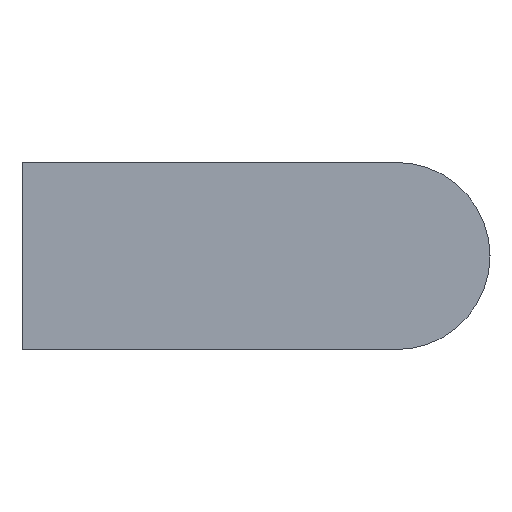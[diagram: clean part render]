
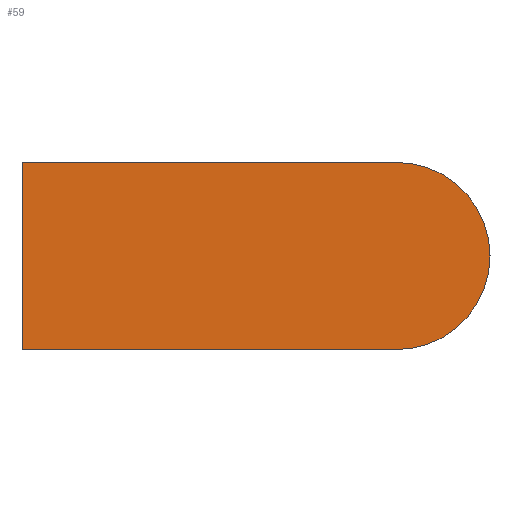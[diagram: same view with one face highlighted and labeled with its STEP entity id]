
A CAD part, left-side view. The second image highlights one B-rep face of the part: STEP entity #59.
In plain terms, the highlighted planar face has unit normal (-1, 0, 0).
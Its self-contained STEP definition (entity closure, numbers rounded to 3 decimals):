
#59 = ADVANCED_FACE( '', ( #129 ), #130, .F. );
#129 = FACE_OUTER_BOUND( '', #206, .T. );
#130 = PLANE( '', #207 );
#206 = EDGE_LOOP( '', ( #306, #307, #308, #309 ) );
#207 = AXIS2_PLACEMENT_3D( '', #310, #311, #312 );
#306 = ORIENTED_EDGE( '', *, *, #441, .F. );
#307 = ORIENTED_EDGE( '', *, *, #413, .F. );
#308 = ORIENTED_EDGE( '', *, *, #433, .F. );
#309 = ORIENTED_EDGE( '', *, *, #442, .F. );
#310 = CARTESIAN_POINT( '', ( -6., -28., 0. ) );
#311 = DIRECTION( '', ( 1., 0., 0. ) );
#312 = DIRECTION( '', ( 0., 0., -1. ) );
#413 = EDGE_CURVE( '', #473, #474, #475, .T. );
#433 = EDGE_CURVE( '', #507, #473, #508, .T. );
#441 = EDGE_CURVE( '', #474, #519, #520, .T. );
#442 = EDGE_CURVE( '', #519, #507, #521, .T. );
#473 = VERTEX_POINT( '', #558 );
#474 = VERTEX_POINT( '', #559 );
#475 = LINE( '', #560, #561 );
#507 = VERTEX_POINT( '', #603 );
#508 = LINE( '', #604, #605 );
#519 = VERTEX_POINT( '', #619 );
#520 = LINE( '', #620, #621 );
#521 = CIRCLE( '', #622, 7. );
#558 = CARTESIAN_POINT( '', ( -6., 0., -7. ) );
#559 = CARTESIAN_POINT( '', ( -6., 0., 7. ) );
#560 = CARTESIAN_POINT( '', ( -6., 0., -7. ) );
#561 = VECTOR( '', #667, 1000. );
#603 = CARTESIAN_POINT( '', ( -6., -28., -7. ) );
#604 = CARTESIAN_POINT( '', ( -6., -28., -7. ) );
#605 = VECTOR( '', #690, 1000. );
#619 = CARTESIAN_POINT( '', ( -6., -28., 7. ) );
#620 = CARTESIAN_POINT( '', ( -6., 0., 7. ) );
#621 = VECTOR( '', #700, 1000. );
#622 = AXIS2_PLACEMENT_3D( '', #701, #702, #703 );
#667 = DIRECTION( '', ( 0., 0., 1. ) );
#690 = DIRECTION( '', ( 0., 1., 0. ) );
#700 = DIRECTION( '', ( 0., -1., 0. ) );
#701 = CARTESIAN_POINT( '', ( -6., -28., 0. ) );
#702 = DIRECTION( '', ( 1., 0., 0. ) );
#703 = DIRECTION( '', ( 0., 0., -1. ) );
